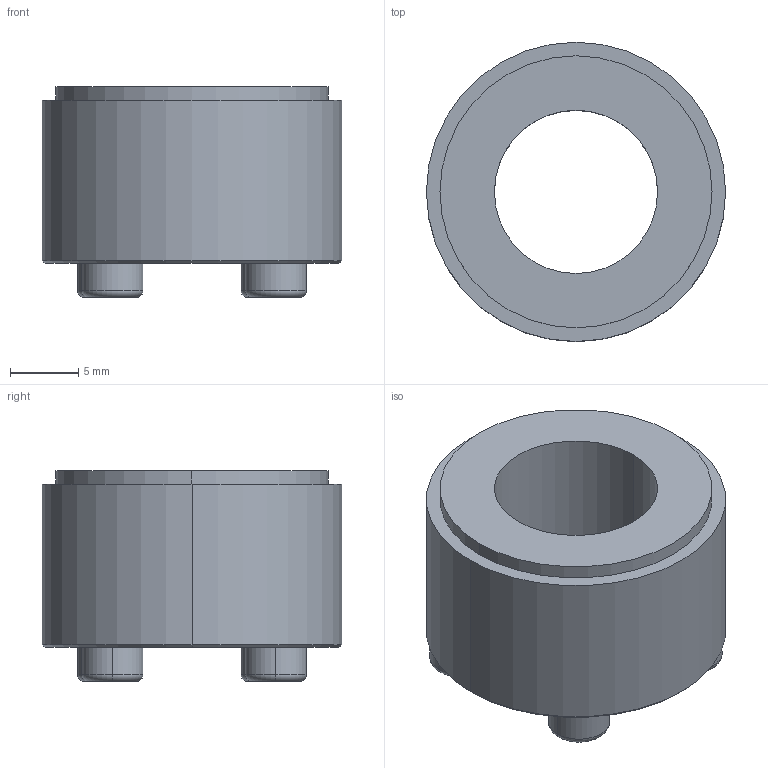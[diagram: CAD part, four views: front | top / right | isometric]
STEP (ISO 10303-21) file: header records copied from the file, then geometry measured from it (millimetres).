
FILE_DESCRIPTION (( 'STEP AP203' ), '1' );
FILE_NAME ('PL-B 12-22.STEP', '2021-10-22T07:45:01', ( '' ), ( '' ), 'SwSTEP 2.0', 'SolidWorks 2018', '' );
FILE_SCHEMA (( 'CONFIG_CONTROL_DESIGN' ));
Length unit declared in the file: millimetre
Products named in the file (1): PL-B 12-22
Bounding box: 22 x 22 x 15.5 mm (x, y, z)
Volume: 3544.3 mm3; surface area: 2063.1 mm2
Topology: 1 solids, 1 shells, 61 faces, 138 edges, 88 vertices
Faces by surface type: plane 35, cylinder 14, torus 8, cone 4
Entity records: 1785 total; most frequent: DIRECTION 310, CARTESIAN_POINT 288, ORIENTED_EDGE 276, EDGE_CURVE 138, AXIS2_PLACEMENT_3D 110, LINE 90, VECTOR 90, VERTEX_POINT 88
